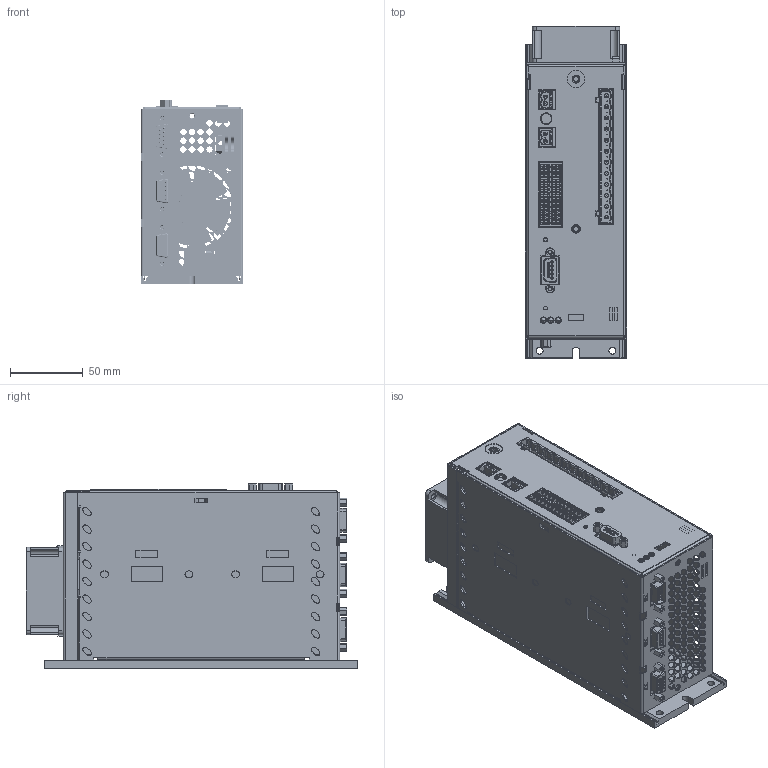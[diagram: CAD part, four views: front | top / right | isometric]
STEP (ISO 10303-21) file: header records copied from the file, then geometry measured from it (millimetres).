
FILE_DESCRIPTION (( 'STEP AP214' ), '1' );
FILE_NAME ('CDE32.003.C_32.004.C.STEP', '2010-10-26T11:01:07', ( 'Bereich' ), ( 'LTi DRiVES GmbH' ), 'SwSTEP 2.0', 'SolidWorks 2008', '' );
FILE_SCHEMA (( 'AUTOMOTIVE_DESIGN' ));
Length unit declared in the file: millimetre
Products named in the file (29): LED_3FACH_108456_Standard; DRUCKTASTER-105903_Standard; D_SUB_9POLIG_108581_Standard; TEIL6_Standard; D-SUB 9POLIG 106257_Standard; CODIERSCHALTER1_Standard; LÜFTER 60X60X25_Standard; polig-Stift_Standard; D_SUB_15POLIG_Standard; 0931.507.0_Standard; TEST_Standard; CDE32.003.C_32.004.C; gmstba_2.5-12-g-7.62_Standard; 0882.505.0_Standard; 1020.501.0; DISTANZBOLZEN 107749_Standard; 0931.501.0_Standard; 1020.506.0_Standard; Self-clinching Nut_PMM_PEM S-M4-1 ZI--N; 1020.501.0_Standard; MCDN_1.5-12-G1-3.5-P26THR1_Standard; MCDN_1.5-12-G1-3.5-P26THR(1)1_Standard; STEUERPRINT CDE1_Standard; MSTBA_2.5-2-G1_Standard; MSTBA_2.5-2-G(1)1_Standard
Assembly tree (40 placements, depth 4):
  CDE32.003.C_32.004.C
    DISTANZBOLZEN 107749_Standard  x8
    1020.501.0
      Self-clinching Nut_PMM_PEM S-M4-1 ZI--N  x4
      1020.501.0_Standard
      1020.506.0_Standard
    0931.501.0_Standard
    gmstba_2.5-12-g-7.62_Standard
      gmstba_2.5-12-g-7.62_Standard
    STEUERPRINT CDE1_Standard
      MSTBA_2.5-2-G(1)1_Standard  x2
        MSTBA_2.5-2-G1_Standard
      TEIL6_Standard
      D-SUB 9POLIG 106257_Standard
        D-SUB 9POLIG 106257_Standard
      D_SUB_15POLIG_Standard
      LED_3FACH_108456_Standard
        LED_3FACH_108456_Standard
      polig-Stift_Standard
      DRUCKTASTER-105903_Standard  x2
        DRUCKTASTER-105903_Standard
      CODIERSCHALTER1_Standard
      MCDN_1.5-12-G1-3.5-P26THR(1)1_Standard
        MCDN_1.5-12-G1-3.5-P26THR1_Standard
      D_SUB_9POLIG_108581_Standard
        TEST_Standard
    0931.507.0_Standard
    LÜFTER 60X60X25_Standard
    0882.505.0_Standard
Bounding box: 70 x 227.85 x 126.61 mm (x, y, z)
Volume: 331093.3 mm3; surface area: 301949.1 mm2
Topology: 31 solids, 67 shells, 5706 faces, 14511 edges, 9170 vertices
Faces by surface type: plane 3847, cylinder 1137, bspline 410, cone 256, torus 34, sphere 22
Entity records: 192562 total; most frequent: CARTESIAN_POINT 35311, ORIENTED_EDGE 25435, DIRECTION 23656, EDGE_CURVE 12770, VECTOR 9326, LINE 9326, VERTEX_POINT 8102, AXIS2_PLACEMENT_3D 7165
